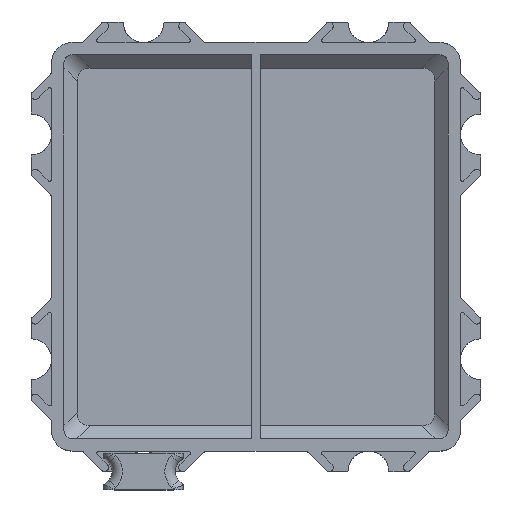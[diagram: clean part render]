
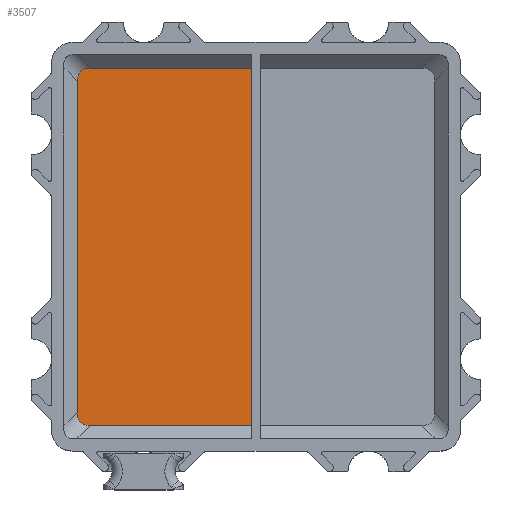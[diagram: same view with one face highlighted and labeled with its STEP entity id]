
A CAD part, top view. The second image highlights one B-rep face of the part: STEP entity #3507.
In plain terms, the highlighted planar face has unit normal (0, 0, 1).
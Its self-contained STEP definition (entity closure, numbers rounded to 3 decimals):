
#229=ELLIPSE('',#3720,3.118,1.8);
#230=ELLIPSE('',#3721,3.118,1.8);
#299=FACE_OUTER_BOUND('',#485,.T.);
#485=EDGE_LOOP('',(#2205,#2206,#2207,#2208,#2209,#2210));
#668=LINE('',#5155,#994);
#686=LINE('',#5195,#1012);
#689=LINE('',#5204,#1015);
#690=LINE('',#5207,#1016);
#994=VECTOR('',#4086,10.);
#1012=VECTOR('',#4116,10.);
#1015=VECTOR('',#4125,10.);
#1016=VECTOR('',#4128,10.);
#1319=VERTEX_POINT('',#5151);
#1321=VERTEX_POINT('',#5154);
#1337=VERTEX_POINT('',#5193);
#1339=VERTEX_POINT('',#5201);
#1340=VERTEX_POINT('',#5203);
#1341=VERTEX_POINT('',#5205);
#1658=EDGE_CURVE('',#1321,#1319,#668,.T.);
#1678=EDGE_CURVE('',#1319,#1337,#686,.T.);
#1681=EDGE_CURVE('',#1337,#1339,#229,.T.);
#1682=EDGE_CURVE('',#1339,#1340,#689,.T.);
#1683=EDGE_CURVE('',#1340,#1341,#230,.T.);
#1684=EDGE_CURVE('',#1341,#1321,#690,.T.);
#2205=ORIENTED_EDGE('',*,*,#1658,.T.);
#2206=ORIENTED_EDGE('',*,*,#1678,.T.);
#2207=ORIENTED_EDGE('',*,*,#1681,.T.);
#2208=ORIENTED_EDGE('',*,*,#1682,.T.);
#2209=ORIENTED_EDGE('',*,*,#1683,.T.);
#2210=ORIENTED_EDGE('',*,*,#1684,.T.);
#3217=PLANE('',#3719);
#3507=ADVANCED_FACE('',(#299),#3217,.F.);
#3719=AXIS2_PLACEMENT_3D('',#5200,#4121,#4122);
#3720=AXIS2_PLACEMENT_3D('',#5202,#4123,#4124);
#3721=AXIS2_PLACEMENT_3D('',#5206,#4126,#4127);
#4086=DIRECTION('',(0.,1.,0.));
#4116=DIRECTION('',(-1.,0.,0.));
#4121=DIRECTION('center_axis',(0.,0.,-1.));
#4122=DIRECTION('ref_axis',(-1.,0.,0.));
#4123=DIRECTION('center_axis',(0.,0.,1.));
#4124=DIRECTION('ref_axis',(-0.707,0.707,0.));
#4125=DIRECTION('',(0.,-1.,0.));
#4126=DIRECTION('center_axis',(0.,0.,1.));
#4127=DIRECTION('ref_axis',(-0.707,-0.707,0.));
#4128=DIRECTION('',(1.,0.,0.));
#5151=CARTESIAN_POINT('',(21.6,39.503,-10.));
#5154=CARTESIAN_POINT('',(21.6,4.497,-10.));
#5155=CARTESIAN_POINT('',(21.6,22.,-10.));
#5193=CARTESIAN_POINT('',(5.77,39.503,-10.));
#5195=CARTESIAN_POINT('',(17.,39.503,-10.));
#5200=CARTESIAN_POINT('Origin',(22.,22.,-10.));
#5201=CARTESIAN_POINT('',(4.497,38.23,-10.));
#5202=CARTESIAN_POINT('Origin',(7.043,36.957,-10.));
#5203=CARTESIAN_POINT('',(4.497,5.77,-10.));
#5204=CARTESIAN_POINT('',(4.497,17.,-10.));
#5205=CARTESIAN_POINT('',(5.77,4.497,-10.));
#5206=CARTESIAN_POINT('Origin',(7.043,7.043,-10.));
#5207=CARTESIAN_POINT('',(27.,4.497,-10.));
